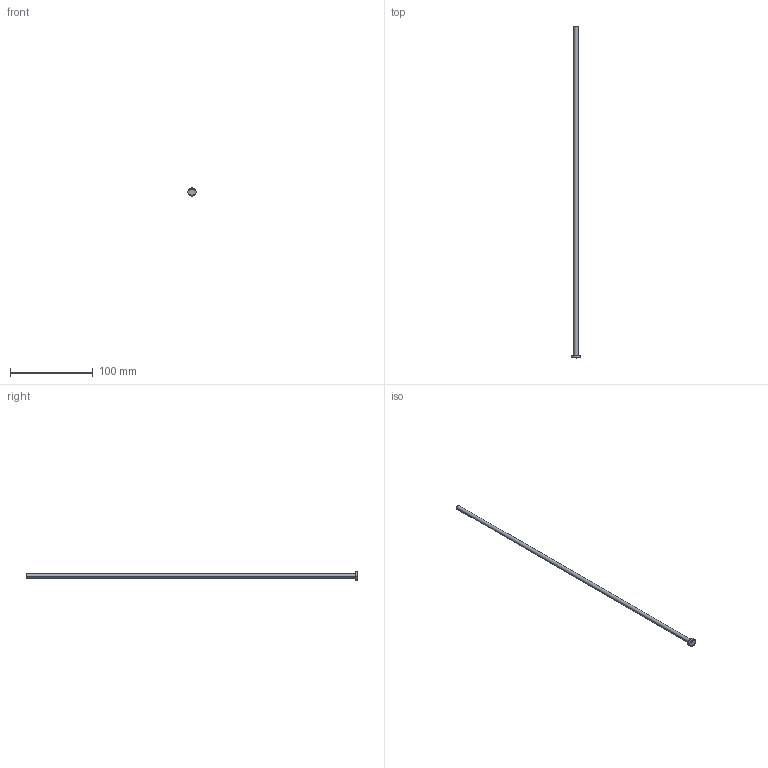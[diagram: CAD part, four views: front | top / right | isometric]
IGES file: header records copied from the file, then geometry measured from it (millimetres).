
Start section: SolidWorks IGES file using analytic representation for surfaces
Global section: file name: C:\Users\User\Downloads\Matripeça 31-08 tar\PB - PINO EXTRATOR TIPO _B_ (CATÁLOGO)\PB05,0\PB05,0400.IGS; native system: SolidWorks 2024; preprocessor: SolidWorks 2024; author: User; date: 260901.142959; units: millimetre
Bounding box: 10 x 400 x 10 mm (x, y, z)
Surface area: 6493.4 mm2 (no closed solid volume)
Topology: 0 solids, 0 shells, 404 faces, 3604 edges, 3604 vertices
Faces by surface type: bspline 390, revolution 14
